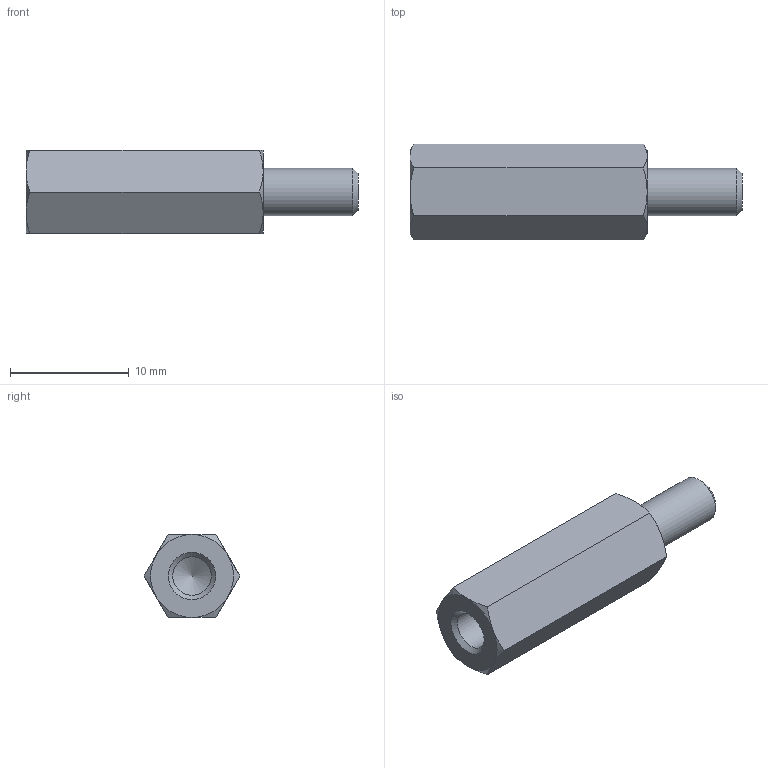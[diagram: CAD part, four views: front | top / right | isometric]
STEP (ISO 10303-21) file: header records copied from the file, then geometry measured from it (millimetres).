
FILE_DESCRIPTION( ( 'STEP AP203' ), '1' );
FILE_NAME( 'C:/Temp/Ganter_Step_05_03_2020/data/3_2/gn6220/gn6220_ni/Stainless Steel-Spacer GN 6220-NI-M4-20-B.stp', '2020-03-13T05:43:10', ( 'License CC BY-ND 4.0' ), ( 'CADENAS' ), ' ', 'PARTsolutions', ' ' );
FILE_SCHEMA( ( 'CONFIG_CONTROL_DESIGN' ) );
Length unit declared in the file: millimetre
Products named in the file (1): _Stainless Steel-Spacer GN 6220-NI-M4-20-B
Bounding box: 28 x 8.08 x 7 mm (x, y, z)
Volume: 830 mm3; surface area: 802.8 mm2
Topology: 1 solids, 1 shells, 26 faces, 55 edges, 32 vertices
Faces by surface type: cone 15, plane 9, cylinder 2
Full cylindrical faces by diameter (mm): 3.242 x1, 4 x1
Entity records: 746 total; most frequent: CARTESIAN_POINT 210, DIRECTION 96, ORIENTED_EDGE 96, EDGE_CURVE 48, AXIS2_PLACEMENT_3D 45, EDGE_LOOP 32, VERTEX_POINT 31, FACE_OUTER_BOUND 28
